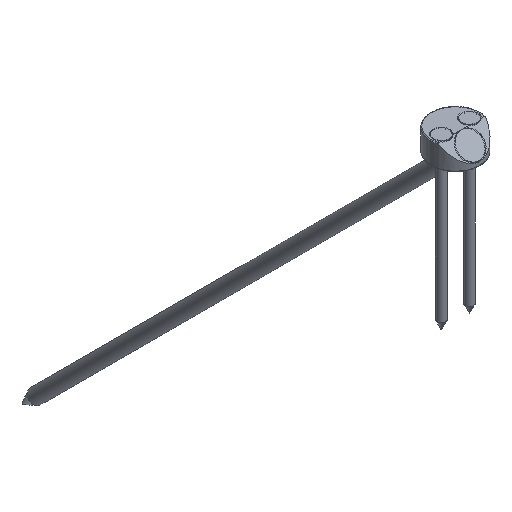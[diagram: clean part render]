
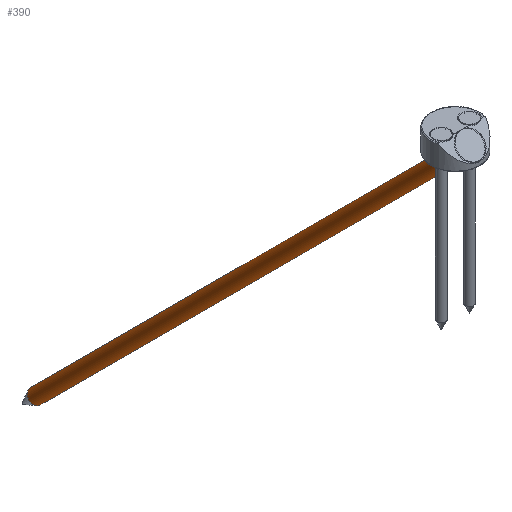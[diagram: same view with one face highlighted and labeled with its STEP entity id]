
A CAD part, isometric view. The second image highlights one B-rep face of the part: STEP entity #390.
In plain terms, the highlighted cylindrical face has radius 5 mm (diameter 10 mm), a full revolution.
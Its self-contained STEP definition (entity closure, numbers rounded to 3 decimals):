
#59=CYLINDRICAL_SURFACE('',#480,5.);
#91=CIRCLE('',#479,5.);
#92=CIRCLE('',#481,5.);
#165=ORIENTED_EDGE('',*,*,#206,.T.);
#166=ORIENTED_EDGE('',*,*,#205,.F.);
#205=EDGE_CURVE('',#238,#238,#91,.T.);
#206=EDGE_CURVE('',#239,#239,#92,.T.);
#238=VERTEX_POINT('',#733);
#239=VERTEX_POINT('',#736);
#297=EDGE_LOOP('',(#165));
#298=EDGE_LOOP('',(#166));
#350=FACE_BOUND('',#297,.T.);
#351=FACE_BOUND('',#298,.T.);
#390=ADVANCED_FACE('',(#350,#351),#59,.T.);
#479=AXIS2_PLACEMENT_3D('',#732,#602,#603);
#480=AXIS2_PLACEMENT_3D('',#734,#604,#605);
#481=AXIS2_PLACEMENT_3D('',#735,#606,#607);
#602=DIRECTION('',(0.,1.,0.));
#603=DIRECTION('',(0.,0.,1.));
#604=DIRECTION('',(0.,1.,0.));
#605=DIRECTION('',(0.,0.,1.));
#606=DIRECTION('',(0.,1.,0.));
#607=DIRECTION('',(0.,0.,1.));
#732=CARTESIAN_POINT('',(0.,42.,0.));
#733=CARTESIAN_POINT('',(0.,42.,5.));
#734=CARTESIAN_POINT('',(0.,54.,0.));
#735=CARTESIAN_POINT('',(0.,-383.,0.));
#736=CARTESIAN_POINT('',(0.,-383.,5.));
